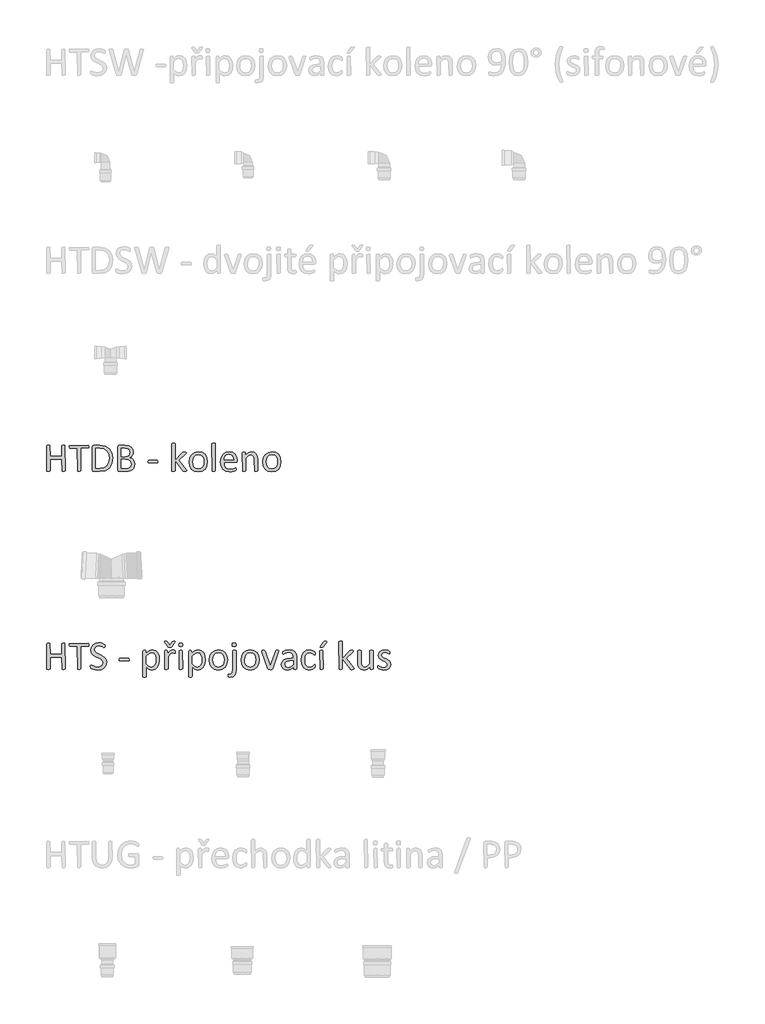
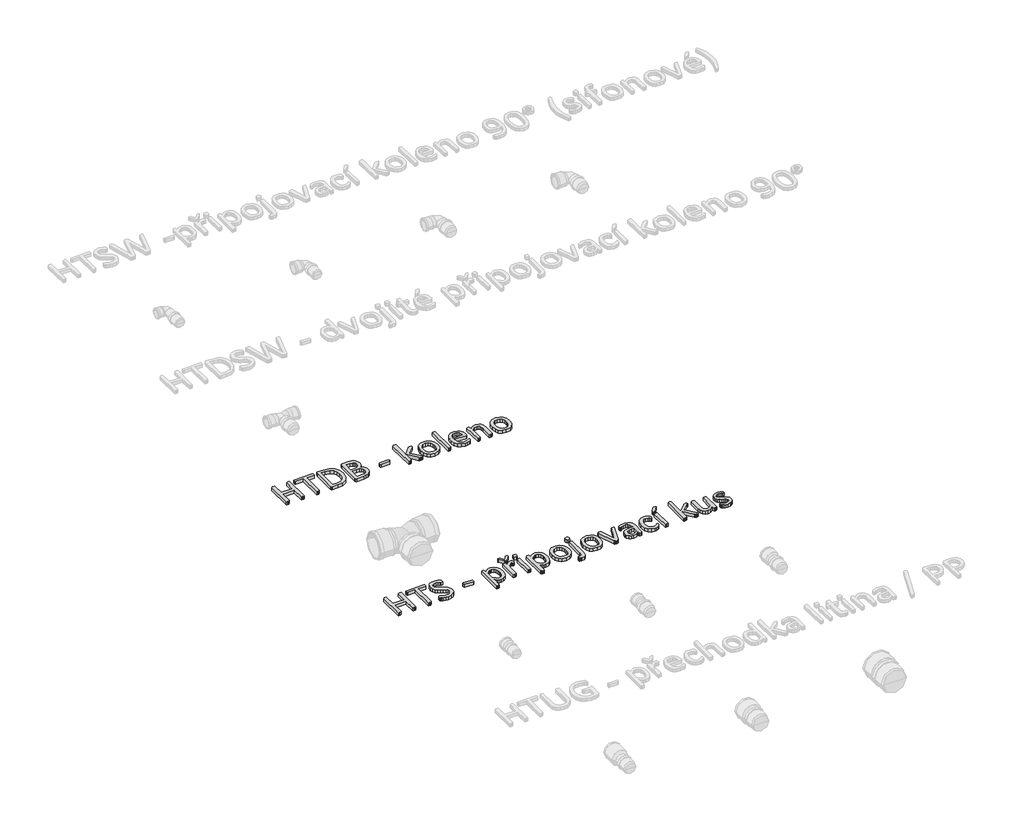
# One storey, part 4 of 26: 2 proxies.
"""IFC4 building model written with IfcOpenShell, lengths in millimetres."""

from ifc_helpers import new_model, si_unit, origin, origin_with_axes, place, context, project, spatial, polyline, outline, extrude, element, save

model = new_model("IFC4")

# Units and contexts
model_context = context("Model", 3, world=origin())
ifc_project = project(units=[si_unit("LENGTHUNIT", "METRE", prefix="MILLI")], contexts=[model_context])

# Site, building, storey
site = spatial("IfcSite", under=ifc_project)
building = spatial("IfcBuilding", under=site)
storey = spatial("IfcBuildingStorey", under=building, Name="Podlaží 1", Elevation=0.0)

# Proxies
placement = place(None, origin())
element("IfcBuildingElementProxy", 1, Name="120mm Arial", ObjectType="120mm Arial", at=placement, inside=storey, context=model_context, shape_type="SweptSolid", body=[
    extrude(outline(polyline([(-20465.0657483, -3951.9493003), (-20469.2817655, -3954.6815689), (-20473.1358927, -3954.9167974), (-20477.1166815, -3954.6815689), (-20479.5775327, -3954.1387341), (-20481.2784151, -3899.3305111), (-20534.5486061, -3899.3305111), (-20534.5486061, -3951.9854893), (-20538.7465288, -3954.6815689), (-20542.6549395, -3954.9167974), (-20546.5271613, -3954.6815689), (-20549.0603905, -3954.1206396), (-20550.7612729, -3837.4473409), (-20546.5271613, -3834.7150723), (-20542.6549395, -3834.4798438), (-20538.7465288, -3834.7150723), (-20536.2494886, -3835.2760016), (-20534.5486061, -3885.4339396), (-20481.2784151, -3885.4339396), (-20481.2784151, -3837.4473409), (-20477.1166815, -3834.7150723), (-20473.1358927, -3834.4798438), (-20469.2817655, -3834.7150723), (-20466.7666308, -3835.2760016), (-20465.0657483, -3951.9493003)])), origin_with_axes(), (0.0, 0.0, 1.0), 15.0),
    extrude(outline(polyline([(-20356.2092711, -3841.5366966), (-20356.390216, -3844.6670441), (-20356.9873343, -3846.8021944), (-20393.2667952, -3848.3764154), (-20393.2667952, -3951.9493003), (-20397.4647179, -3954.6815689), (-20401.3731287, -3954.9167974), (-20405.2453504, -3954.6815689), (-20407.7785796, -3954.1206396), (-20409.4794621, -3848.3764154), (-20443.3885442, -3848.3764154), (-20446.3017578, -3844.6670441), (-20446.5369862, -3841.5366966), (-20446.3017578, -3838.3339711), (-20445.686545, -3836.0902538), (-20359.3939021, -3834.4798438), (-20357.0054288, -3836.0902538), (-20356.390216, -3838.3339711), (-20356.2092711, -3841.5366966)])), origin_with_axes(), (0.0, 0.0, 1.0), 15.0),
    extrude(outline(polyline([(-20247.3527939, -3892.9250602), (-20251.3516771, -3920.2477464), (-20263.0407204, -3939.6088553), (-20281.8951833, -3951.0988591), (-20308.5121843, -3954.9167974), (-20334.0254212, -3954.9167974), (-20338.0966824, -3953.4692378), (-20339.9966043, -3948.4027794), (-20339.9966043, -3840.9938618), (-20338.0966824, -3835.9274034), (-20334.0254212, -3834.4798438), (-20306.7389239, -3834.4798438), (-20280.3028678, -3838.5330105), (-20262.1902791, -3850.1677703), (-20251.1164487, -3868.5517765), (-20247.3527939, -3892.9250602)]), holes=[polyline([(-20263.5654607, -3893.6488399), (-20266.0082174, -3875.6629127), (-20273.644094, -3861.2596953), (-20286.8168858, -3851.7781803), (-20307.3541367, -3848.3764154), (-20323.7839374, -3848.3764154), (-20323.7839374, -3941.0202258), (-20307.1731918, -3941.0202258), (-20287.5768545, -3938.1612957), (-20274.2593068, -3929.421655), (-20266.2434458, -3914.6565477), (-20263.5654607, -3893.6488399)])]), origin_with_axes(), (0.0, 0.0, 1.0), 15.0),
    extrude(outline(polyline([(-20145.4446024, -3920.8629592), (-20146.8740675, -3931.1768209), (-20150.8910452, -3939.6812332), (-20157.1155512, -3946.2857236), (-20165.3304516, -3951.0626701), (-20175.1195729, -3953.9577892), (-20187.0619391, -3954.9167974), (-20218.2930361, -3954.9167974), (-20222.2919194, -3953.4692378), (-20224.1918413, -3948.4027794), (-20224.1918413, -3840.9938618), (-20222.2738249, -3835.9274034), (-20218.2206582, -3834.4798438), (-20190.8617829, -3834.4798438), (-20173.1472731, -3836.5607107), (-20161.6572692, -3842.6042717), (-20154.727078, -3852.3391096), (-20152.3928882, -3865.38524), (-20153.4242744, -3873.6906128), (-20156.4460549, -3881.018883), (-20161.4763243, -3887.0262551), (-20168.4246101, -3891.3689337), (-20159.4497409, -3894.7164151), (-20152.1757543, -3900.9228266), (-20147.2540518, -3909.7348453), (-20145.4446024, -3920.8629592)]), holes=[polyline([(-20168.605555, -3867.5565793), (-20169.8178861, -3859.5588128), (-20173.6177299, -3853.4971573), (-20180.3850708, -3849.6973135), (-20191.4408067, -3848.3764154), (-20207.9791744, -3848.3764154), (-20207.9791744, -3887.7500348), (-20189.7761133, -3887.7500348), (-20179.7517635, -3886.1034359), (-20173.436785, -3881.6883793), (-20169.7636027, -3875.2105503), (-20168.605555, -3867.5565793)]), polyline([(-20161.6572692, -3921.0077152), (-20163.3581517, -3911.6709562), (-20168.3341376, -3904.9036153), (-20176.549038, -3900.7418817), (-20188.9799555, -3899.3305111), (-20207.9791744, -3899.3305111), (-20207.9791744, -3941.0202258), (-20184.9267888, -3941.0202258), (-20175.4090849, -3939.7355167), (-20168.2617596, -3935.9356729), (-20163.4124352, -3929.6749779), (-20161.6572692, -3921.0077152)])]), origin_with_axes(), (0.0, 0.0, 1.0), 15.0),
    extrude(outline(polyline([(-20038.9042205, -3909.7167508), (-20039.7546617, -3914.2765633), (-20042.2336074, -3915.5431779), (-20081.8243608, -3915.5431779), (-20084.3756844, -3914.2403744), (-20085.2261257, -3909.7167508), (-20084.3756844, -3905.2293162), (-20081.8243608, -3903.9627016), (-20042.2336074, -3903.9627016), (-20039.1394489, -3907.0025767), (-20038.9042205, -3909.7167508)])), origin_with_axes(), (0.0, 0.0, 1.0), 15.0),
    extrude(outline(polyline([(-19906.8867906, -3951.9854893), (-19910.9580518, -3954.7358524), (-19914.9569351, -3954.9167974), (-19919.0824797, -3954.7720414), (-19921.8328429, -3954.3196791), (-19923.6422923, -3953.4149543), (-19924.9089069, -3951.9854893), (-19960.1569816, -3906.4235529), (-19960.1569816, -3952.0940563), (-19964.2825263, -3954.7358524), (-19968.299504, -3954.9167974), (-19972.2441038, -3954.7358524), (-19974.741144, -3954.1749231), (-19976.3696484, -3828.1829599), (-19972.2441038, -3825.3964077), (-19968.299504, -3825.2154628), (-19964.2825263, -3825.3964077), (-19961.8397696, -3825.9573371), (-19960.5550605, -3826.8982508), (-19960.1569816, -3904.3245915), (-19927.9487819, -3870.0898085), (-19926.3383719, -3868.5879654), (-19924.3117886, -3867.5927683), (-19921.5252365, -3867.0499334), (-19917.6349202, -3866.9051775), (-19913.6541315, -3867.0499334), (-19911.0666188, -3867.5022958), (-19909.6371538, -3868.316548), (-19909.8361932, -3871.8449744), (-19911.953249, -3874.3962981), (-19943.9443148, -3904.2160246), (-19909.1666969, -3947.6789997), (-19907.411531, -3950.1941344), (-19906.8867906, -3951.9854893)])), origin_with_axes(), (0.0, 0.0, 1.0), 15.0),
    extrude(outline(polyline([(-19811.926885, -3910.0062627), (-19814.6048701, -3928.9873871), (-19822.6207311, -3943.9334394), (-19835.9744678, -3953.7225607), (-19854.5575134, -3957.2328926), (-19872.4710626, -3954.1387341), (-19885.2095866, -3945.1457705), (-19892.8092741, -3930.8149311), (-19895.3063143, -3911.7071452), (-19892.6645182, -3892.7260207), (-19884.7029407, -3877.798063), (-19871.4034875, -3868.0632251), (-19852.7842529, -3864.5890822), (-19834.8526092, -3867.6832407), (-19822.1140852, -3876.6762044), (-19814.4782087, -3891.0070438), (-19811.926885, -3910.0062627)]), holes=[polyline([(-19828.1395518, -3911.0919324), (-19829.3880719, -3898.5162589), (-19833.4955221, -3888.1300192), (-19841.2218711, -3881.0731665), (-19853.3994657, -3878.4856538), (-19864.9618475, -3880.8560325), (-19872.923425, -3887.5509954), (-19877.57371, -3897.7924791), (-19879.0936475, -3910.7300425), (-19877.8451274, -3923.3780939), (-19873.7014882, -3933.7281446), (-19865.9208557, -3940.7488084), (-19853.7613556, -3943.3363211), (-19842.2351628, -3940.9659423), (-19834.2193019, -3934.3252629), (-19829.6052058, -3924.1199682), (-19828.1395518, -3911.0919324)])]), origin_with_axes(), (0.0, 0.0, 1.0), 15.0),
    extrude(outline(polyline([(-19774.8693608, -3952.0578673), (-19778.9949055, -3954.7358524), (-19783.0118832, -3954.9167974), (-19786.956483, -3954.7358524), (-19789.4535232, -3954.1749231), (-19791.0820276, -3828.1829599), (-19786.956483, -3825.3964077), (-19783.0118832, -3825.2154628), (-19778.9949055, -3825.3964077), (-19776.5521488, -3825.9573371), (-19774.8693608, -3952.0578673)])), origin_with_axes(), (0.0, 0.0, 1.0), 15.0),
    extrude(outline(polyline([(-19675.2772646, -3906.6044978), (-19677.0686196, -3911.7071452), (-19681.1760698, -3913.2270827), (-19735.4957414, -3913.2270827), (-19734.1386543, -3926.6170084), (-19729.6331253, -3936.8223031), (-19721.4182249, -3943.3725101), (-19709.0415909, -3945.6524163), (-19698.7639181, -3944.5848412), (-19690.9470966, -3942.1782734), (-19685.5368429, -3939.7717057), (-19682.3341174, -3938.7041305), (-19680.0361166, -3941.5992496), (-19679.9094552, -3944.2410458), (-19679.9999276, -3946.1771567), (-19684.4511732, -3951.5693159), (-19690.8023407, -3954.0663561), (-19699.8495878, -3956.2557899), (-19710.8148513, -3957.2328926), (-19728.4931721, -3954.3377735), (-19741.2497906, -3945.7247943), (-19749.0666121, -3931.3758604), (-19751.7084082, -3911.3452553), (-19748.9399506, -3891.8032015), (-19740.9602787, -3877.1104722), (-19728.3665107, -3867.8279967), (-19711.828143, -3864.5890822), (-19695.1812083, -3867.7194297), (-19683.8721494, -3876.151464), (-19677.3581315, -3888.5823816), (-19675.2772646, -3903.8179457), (-19675.2772646, -3906.6044978)]), holes=[polyline([(-19691.4899315, -3901.6466064), (-19692.66155, -3891.0206147), (-19696.6830513, -3882.9549939), (-19703.4549158, -3877.8659174), (-19712.8776236, -3876.1695585), (-19722.521989, -3878.2685199), (-19729.4521803, -3883.8597186), (-19733.7767645, -3891.9841465), (-19735.4957414, -3901.6466064), (-19691.4899315, -3901.6466064)])]), origin_with_axes(), (0.0, 0.0, 1.0), 15.0),
    extrude(outline(polyline([(-19580.317359, -3952.0578673), (-19584.4429037, -3954.7358524), (-19588.3875034, -3954.9167974), (-19592.4044811, -3954.7358524), (-19594.8472378, -3954.1930176), (-19596.5300258, -3903.7093787), (-19597.597601, -3892.3460364), (-19600.6917595, -3884.9091992), (-19605.9572573, -3880.1322528), (-19613.4302834, -3878.4856538), (-19624.4136414, -3882.520726), (-19635.9036452, -3894.3726197), (-19635.9036452, -3952.0578673), (-19640.0291899, -3954.7358524), (-19644.0461676, -3954.9167974), (-19647.9907674, -3954.7358524), (-19650.4878076, -3954.1930176), (-19652.116312, -3869.7279186), (-19648.3888462, -3867.0499334), (-19644.7337584, -3866.9051775), (-19641.1510485, -3867.0499334), (-19638.9435203, -3867.5927683), (-19637.4597717, -3880.6208041), (-19623.6174836, -3868.4432095), (-19609.7028176, -3864.5890822), (-19595.878624, -3867.4118233), (-19586.7951879, -3874.9572274), (-19581.819202, -3886.0129634), (-19580.317359, -3901.2485275), (-19580.317359, -3952.0578673)])), origin_with_axes(), (0.0, 0.0, 1.0), 15.0),
    extrude(outline(polyline([(-19473.776977, -3910.0062627), (-19476.4549622, -3928.9873871), (-19484.4708231, -3943.9334394), (-19497.8245598, -3953.7225607), (-19516.4076054, -3957.2328926), (-19534.3211547, -3954.1387341), (-19547.0596786, -3945.1457705), (-19554.6593662, -3930.8149311), (-19557.1564064, -3911.7071452), (-19554.5146102, -3892.7260207), (-19546.5530328, -3877.798063), (-19533.2535795, -3868.0632251), (-19514.634345, -3864.5890822), (-19496.7027012, -3867.6832407), (-19483.9641773, -3876.6762044), (-19476.3283007, -3891.0070438), (-19473.776977, -3910.0062627)]), holes=[polyline([(-19489.9896438, -3911.0919324), (-19491.2381639, -3898.5162589), (-19495.3456141, -3888.1300192), (-19503.0719632, -3881.0731665), (-19515.2495578, -3878.4856538), (-19526.8119396, -3880.8560325), (-19534.773517, -3887.5509954), (-19539.423802, -3897.7924791), (-19540.9437396, -3910.7300425), (-19539.6952195, -3923.3780939), (-19535.5515803, -3933.7281446), (-19527.7709478, -3940.7488084), (-19515.6114477, -3943.3363211), (-19504.0852548, -3940.9659423), (-19496.0693939, -3934.3252629), (-19491.4552979, -3924.1199682), (-19489.9896438, -3911.0919324)])]), origin_with_axes(), (0.0, 0.0, 1.0), 15.0),
])
element("IfcBuildingElementProxy", 2, Name="120mm Arial", ObjectType="120mm Arial", at=placement, inside=storey, context=model_context, shape_type="SweptSolid", body=[
    extrude(outline(polyline([(-20465.0657483, -4861.9493003), (-20469.2817655, -4864.6815689), (-20473.1358927, -4864.9167974), (-20477.1166815, -4864.6815689), (-20479.5775327, -4864.1387341), (-20481.2784151, -4809.3305111), (-20534.5486061, -4809.3305111), (-20534.5486061, -4861.9854893), (-20538.7465288, -4864.6815689), (-20542.6549395, -4864.9167974), (-20546.5271613, -4864.6815689), (-20549.0603905, -4864.1206396), (-20550.7612729, -4747.4473409), (-20546.5271613, -4744.7150723), (-20542.6549395, -4744.4798438), (-20538.7465288, -4744.7150723), (-20536.2494886, -4745.2760016), (-20534.5486061, -4795.4339396), (-20481.2784151, -4795.4339396), (-20481.2784151, -4747.4473409), (-20477.1166815, -4744.7150723), (-20473.1358927, -4744.4798438), (-20469.2817655, -4744.7150723), (-20466.7666308, -4745.2760016), (-20465.0657483, -4861.9493003)])), origin_with_axes(), (0.0, 0.0, 1.0), 15.0),
    extrude(outline(polyline([(-20356.2092711, -4751.5366966), (-20356.390216, -4754.6670441), (-20356.9873343, -4756.8021944), (-20393.2667952, -4758.3764154), (-20393.2667952, -4861.9493003), (-20397.4647179, -4864.6815689), (-20401.3731287, -4864.9167974), (-20405.2453504, -4864.6815689), (-20407.7785796, -4864.1206396), (-20409.4794621, -4758.3764154), (-20443.3885442, -4758.3764154), (-20446.3017578, -4754.6670441), (-20446.5369862, -4751.5366966), (-20446.3017578, -4748.3339711), (-20445.686545, -4746.0902538), (-20359.3939021, -4744.4798438), (-20357.0054288, -4746.0902538), (-20356.390216, -4748.3339711), (-20356.2092711, -4751.5366966)])), origin_with_axes(), (0.0, 0.0, 1.0), 15.0),
    extrude(outline(polyline([(-20275.145937, -4831.3696051), (-20278.25819, -4846.5689802), (-20286.9254527, -4857.8780391), (-20299.9715831, -4864.8806084), (-20316.1118719, -4867.2328926), (-20327.3304583, -4866.3281679), (-20336.5586504, -4864.1025451), (-20343.3621802, -4861.3702765), (-20347.1801185, -4858.9637088), (-20348.7543395, -4856.1771567), (-20349.2609853, -4851.4183047), (-20349.0800404, -4847.8898783), (-20348.519111, -4845.6280665), (-20342.5479279, -4845.5194996), (-20336.3777054, -4848.6679416), (-20327.3123638, -4851.8525725), (-20315.0623912, -4853.3363211), (-20305.4180258, -4851.9249505), (-20297.9088107, -4847.9441618), (-20293.0594863, -4841.6472778), (-20291.3586038, -4833.1428655), (-20293.747077, -4824.3127523), (-20300.0258665, -4817.8892069), (-20308.9102632, -4812.8227485), (-20319.1517469, -4808.11818), (-20329.3389472, -4802.8164932), (-20338.1871548, -4795.9767744), (-20344.5202278, -4786.7123934), (-20346.94489, -4774.0100584), (-20344.1764324, -4760.4210933), (-20336.4862724, -4750.4329324), (-20324.7610401, -4744.2808044), (-20310.0683108, -4742.1637486), (-20301.9438829, -4742.9418118), (-20294.2537229, -4745.0045842), (-20287.8120829, -4747.8816088), (-20284.1027116, -4750.4510269), (-20282.944664, -4751.95287), (-20282.1846952, -4755.2641624), (-20282.0942228, -4758.2316595), (-20282.2389787, -4761.3077235), (-20282.6551521, -4763.5514408), (-20287.8844609, -4763.9133306), (-20293.3128092, -4760.7467941), (-20300.9124968, -4757.5259742), (-20310.7559016, -4756.0603201), (-20319.6041093, -4757.3812182), (-20325.8286153, -4760.8915501), (-20329.5017976, -4766.1027644), (-20330.7322232, -4772.4901209), (-20328.379939, -4781.2116671), (-20322.1011495, -4787.689496), (-20313.1805638, -4792.8645214), (-20302.9933636, -4797.6052789), (-20292.7880688, -4802.8707767), (-20283.8674832, -4809.6381175), (-20277.5525047, -4818.8301206), (-20275.145937, -4831.3696051)])), origin_with_axes(), (0.0, 0.0, 1.0), 15.0),
    extrude(outline(polyline([(-20170.9216503, -4819.7167508), (-20171.7720915, -4824.2765633), (-20174.2510372, -4825.5431779), (-20213.8417906, -4825.5431779), (-20216.3931143, -4824.2403744), (-20217.2435555, -4819.7167508), (-20216.3931143, -4815.2293162), (-20213.8417906, -4813.9627016), (-20174.2510372, -4813.9627016), (-20171.1568787, -4817.0025767), (-20170.9216503, -4819.7167508)])), origin_with_axes(), (0.0, 0.0, 1.0), 15.0),
    extrude(outline(polyline([(-20031.9559347, -4819.6443728), (-20034.2720299, -4839.494033), (-20041.0755598, -4854.4400852), (-20052.2036737, -4863.9035057), (-20067.3849544, -4867.2328926), (-20074.0980117, -4866.4910184), (-20080.1415728, -4864.1387341), (-20086.0041889, -4860.1036619), (-20092.1744114, -4854.3858017), (-20092.1744114, -4896.6545402), (-20093.8571994, -4898.916352), (-20096.2999561, -4899.4772813), (-20100.3169338, -4899.6582263), (-20104.2615336, -4899.4772813), (-20106.7585738, -4898.916352), (-20108.0432829, -4897.9754383), (-20108.0432829, -4779.8002966), (-20104.6596125, -4777.0499334), (-20101.2940365, -4776.9051775), (-20097.9103661, -4777.0318389), (-20095.7028378, -4777.5022958), (-20094.1286168, -4790.1503473), (-20086.9451026, -4783.3106284), (-20079.9787223, -4778.4793985), (-20072.7771136, -4775.5661849), (-20064.9964811, -4774.5890822), (-20049.797106, -4778.1536976), (-20039.5556223, -4787.8885355), (-20033.7834786, -4802.2555639), (-20031.9559347, -4819.6443728)]), holes=[polyline([(-20048.1686015, -4821.4176333), (-20049.1095152, -4809.1495662), (-20052.3484297, -4798.6185705), (-20058.5186522, -4791.2541114), (-20068.1449231, -4788.4856538), (-20073.8265943, -4789.336095), (-20079.490171, -4792.0502691), (-20085.5156376, -4796.9357826), (-20092.1744114, -4804.3726197), (-20092.1744114, -4837.919812), (-20080.5758406, -4849.3736268), (-20069.0496478, -4853.3363211), (-20059.4595659, -4850.5678634), (-20052.981737, -4843.2034043), (-20049.3447436, -4832.9076371), (-20048.1686015, -4821.4176333)])]), origin_with_axes(), (0.0, 0.0, 1.0), 15.0),
    extrude(outline(polyline([(-19972.8955056, -4737.8934479), (-19971.7374579, -4736.6087389), (-19968.44426, -4735.3421243), (-19965.5491409, -4735.2154628), (-19961.7673916, -4735.5230692), (-19959.9579422, -4736.4096994), (-19961.3150293, -4740.2095432), (-19976.2610815, -4760.6925107), (-19977.4372236, -4761.8505583), (-19979.0295391, -4762.5200546), (-19981.3456344, -4762.8819445), (-19984.6931158, -4763.0086059), (-19987.8415578, -4762.8819445), (-19990.0671806, -4762.4838656), (-19991.6052126, -4761.7600858), (-20007.6369345, -4740.2095432), (-20009.0302105, -4737.9839204), (-20007.1302886, -4735.5230692), (-20003.3666338, -4735.2154628), (-20000.2543808, -4735.3421243), (-19998.3725534, -4735.7944866), (-19996.0564582, -4737.8934479), (-19984.4759819, -4754.0699258), (-19972.8955056, -4737.8934479)])), origin_with_axes(), (0.0, 0.0, 1.0), 15.0),
    extrude(outline(polyline([(-19960.1569816, -4783.8534633), (-19960.2474541, -4787.1466612), (-19960.609344, -4789.2818115), (-19964.1558648, -4790.4941426), (-19966.4900546, -4789.6617959), (-19969.4032682, -4788.8656382), (-19972.8955056, -4788.4856538), (-19977.3105621, -4789.480851), (-19981.8522802, -4792.7378599), (-19986.8282661, -4798.745232), (-19992.5823153, -4807.9191406), (-19992.5823153, -4862.0940563), (-19996.7078599, -4864.7358524), (-20000.7248377, -4864.9167974), (-20004.6694374, -4864.7358524), (-20007.1664776, -4864.1930176), (-20008.7949821, -4779.7279186), (-20005.0675163, -4777.0499334), (-20001.4124284, -4776.9051775), (-19997.8297186, -4777.0499334), (-19995.6221903, -4777.5927683), (-19994.1384418, -4791.7426627), (-19987.8777468, -4783.1658725), (-19982.322737, -4777.9365637), (-19977.1477117, -4775.312862), (-19971.9545919, -4774.5890822), (-19969.3127957, -4774.7157437), (-19966.2005427, -4775.204295), (-19963.2692346, -4776.0185473), (-19961.4235962, -4776.9051775), (-19960.1931706, -4780.5964543), (-19960.1569816, -4783.8534633)])), origin_with_axes(), (0.0, 0.0, 1.0), 15.0),
    extrude(outline(polyline([(-19925.4155527, -4862.0940563), (-19929.5410974, -4864.7358524), (-19933.5580751, -4864.9167974), (-19937.5026749, -4864.7358524), (-19939.9997151, -4864.1930176), (-19941.6282195, -4779.7279186), (-19937.5026749, -4777.0861224), (-19933.5580751, -4776.9051775), (-19929.5410974, -4777.0861224), (-19927.0983407, -4777.6289573), (-19925.4155527, -4862.0940563)])), origin_with_axes(), (0.0, 0.0, 1.0), 15.0),
    extrude(outline(polyline([(-19925.4155527, -4751.3195627), (-19927.4059471, -4758.7202108), (-19934.7885007, -4760.6925107), (-19941.9901094, -4758.7744943), (-19943.9443148, -4751.5366966), (-19941.9539204, -4744.1360485), (-19934.5713668, -4742.1637486), (-19927.3697581, -4744.081765), (-19925.4155527, -4751.3195627)])), origin_with_axes(), (0.0, 0.0, 1.0), 15.0),
    extrude(outline(polyline([(-19821.191266, -4819.6443728), (-19823.5073613, -4839.494033), (-19830.3108911, -4854.4400852), (-19841.4390051, -4863.9035057), (-19856.6202857, -4867.2328926), (-19863.3333431, -4866.4910184), (-19869.3769041, -4864.1387341), (-19875.2395203, -4860.1036619), (-19881.4097428, -4854.3858017), (-19881.4097428, -4896.6545402), (-19883.0925307, -4898.916352), (-19885.5352875, -4899.4772813), (-19889.5522652, -4899.6582263), (-19893.4968649, -4899.4772813), (-19895.9939051, -4898.916352), (-19897.2786142, -4897.9754383), (-19897.2786142, -4779.8002966), (-19893.8949438, -4777.0499334), (-19890.5293679, -4776.9051775), (-19887.1456974, -4777.0318389), (-19884.9381692, -4777.5022958), (-19883.3639482, -4790.1503473), (-19876.180434, -4783.3106284), (-19869.2140537, -4778.4793985), (-19862.012445, -4775.5661849), (-19854.2318125, -4774.5890822), (-19839.0324373, -4778.1536976), (-19828.7909536, -4787.8885355), (-19823.0188099, -4802.2555639), (-19821.191266, -4819.6443728)]), holes=[polyline([(-19837.4039328, -4821.4176333), (-19838.3448465, -4809.1495662), (-19841.583761, -4798.6185705), (-19847.7539835, -4791.2541114), (-19857.3802545, -4788.4856538), (-19863.0619256, -4789.336095), (-19868.7255023, -4792.0502691), (-19874.7509689, -4796.9357826), (-19881.4097428, -4804.3726197), (-19881.4097428, -4837.919812), (-19869.811172, -4849.3736268), (-19858.2849792, -4853.3363211), (-19848.6948972, -4850.5678634), (-19842.2170683, -4843.2034043), (-19838.580075, -4832.9076371), (-19837.4039328, -4821.4176333)])]), origin_with_axes(), (0.0, 0.0, 1.0), 15.0),
    extrude(outline(polyline([(-19719.2830746, -4820.0062627), (-19721.9610597, -4838.9873871), (-19729.9769207, -4853.9334394), (-19743.3306574, -4863.7225607), (-19761.913703, -4867.2328926), (-19779.8272522, -4864.1387341), (-19792.5657762, -4855.1457705), (-19800.1654637, -4840.8149311), (-19802.6625039, -4821.7071452), (-19800.0207078, -4802.7260207), (-19792.0591303, -4787.798063), (-19778.7596771, -4778.0632251), (-19760.1404425, -4774.5890822), (-19742.2087988, -4777.6832407), (-19729.4702748, -4786.6762044), (-19721.8343983, -4801.0070438), (-19719.2830746, -4820.0062627)]), holes=[polyline([(-19735.4957414, -4821.0919324), (-19736.7442615, -4808.5162589), (-19740.8517117, -4798.1300192), (-19748.5780607, -4791.0731665), (-19760.7556553, -4788.4856538), (-19772.3180371, -4790.8560325), (-19780.2796146, -4797.5509954), (-19784.9298996, -4807.7924791), (-19786.4498371, -4820.7300425), (-19785.201317, -4833.3780939), (-19781.0576778, -4843.7281446), (-19773.2770453, -4850.7488084), (-19761.1175452, -4853.3363211), (-19749.5913524, -4850.9659423), (-19741.5754915, -4844.3252629), (-19736.9613954, -4834.1199682), (-19735.4957414, -4821.0919324)])]), origin_with_axes(), (0.0, 0.0, 1.0), 15.0),
    extrude(outline(polyline([(-19679.9094552, -4751.3195627), (-19681.917944, -4758.7202108), (-19689.3185922, -4760.6925107), (-19696.5202009, -4758.7744943), (-19698.4382172, -4751.5366966), (-19696.4840119, -4744.1360485), (-19689.1376472, -4742.1637486), (-19681.8274715, -4744.081765), (-19679.9094552, -4751.3195627)])), origin_with_axes(), (0.0, 0.0, 1.0), 15.0),
    extrude(outline(polyline([(-19679.9094552, -4866.2919789), (-19681.3751092, -4881.672299), (-19685.9530162, -4891.5518929), (-19693.9507827, -4897.6135484), (-19705.7483929, -4899.6582263), (-19711.0681742, -4899.2601474), (-19714.4337501, -4898.3735172), (-19716.0441601, -4897.2516585), (-19716.6774674, -4895.76791), (-19716.9126958, -4894.0308386), (-19716.9669793, -4891.8775938), (-19716.8222234, -4888.8196242), (-19716.333672, -4886.7387574), (-19712.1538439, -4885.5264263), (-19708.2092441, -4885.7616547), (-19702.6904234, -4884.8388355), (-19698.9448631, -4881.817055), (-19696.8097128, -4876.3706122), (-19696.122122, -4866.2196009), (-19696.122122, -4779.7641076), (-19694.403145, -4777.6470517), (-19691.9241993, -4777.0861224), (-19688.0157886, -4776.9051775), (-19684.1073778, -4777.0861224), (-19681.6284321, -4777.6470517), (-19680.307534, -4778.569871), (-19679.9094552, -4866.2919789)])), origin_with_axes(), (0.0, 0.0, 1.0), 15.0),
    extrude(outline(polyline([(-19573.3690732, -4820.0062627), (-19576.0470583, -4838.9873871), (-19584.0629193, -4853.9334394), (-19597.416656, -4863.7225607), (-19615.9997016, -4867.2328926), (-19633.9132509, -4864.1387341), (-19646.6517748, -4855.1457705), (-19654.2514624, -4840.8149311), (-19656.7485026, -4821.7071452), (-19654.1067064, -4802.7260207), (-19646.1451289, -4787.798063), (-19632.8456757, -4778.0632251), (-19614.2264411, -4774.5890822), (-19596.2947974, -4777.6832407), (-19583.5562734, -4786.6762044), (-19575.9203969, -4801.0070438), (-19573.3690732, -4820.0062627)]), holes=[polyline([(-19589.58174, -4821.0919324), (-19590.8302601, -4808.5162589), (-19594.9377103, -4798.1300192), (-19602.6640593, -4791.0731665), (-19614.841654, -4788.4856538), (-19626.4040358, -4790.8560325), (-19634.3656132, -4797.5509954), (-19639.0158982, -4807.7924791), (-19640.5358357, -4820.7300425), (-19639.2873156, -4833.3780939), (-19635.1436765, -4843.7281446), (-19627.363044, -4850.7488084), (-19615.2035438, -4853.3363211), (-19603.677351, -4850.9659423), (-19595.6614901, -4844.3252629), (-19591.0473941, -4834.1199682), (-19589.58174, -4821.0919324)])]), origin_with_axes(), (0.0, 0.0, 1.0), 15.0),
    extrude(outline(polyline([(-19484.0094135, -4778.497493), (-19512.4991946, -4861.6235994), (-19513.4762973, -4863.2701984), (-19515.2857468, -4864.2653956), (-19518.3437163, -4864.7720414), (-19522.9940013, -4864.9167974), (-19527.6080973, -4864.7358524), (-19530.6298779, -4864.1930176), (-19532.4393273, -4863.1797259), (-19533.452619, -4861.6235994), (-19561.8247859, -4783.3830064), (-19562.4219042, -4781.4830845), (-19558.8210998, -4776.99565), (-19555.23839, -4776.9051775), (-19550.9319004, -4777.0499334), (-19548.4348602, -4777.5565793), (-19546.3358988, -4779.8364855), (-19522.7768674, -4847.7270279), (-19498.855946, -4779.8364855), (-19496.8836461, -4777.5565793), (-19494.4589839, -4777.0499334), (-19490.4239117, -4776.9051775), (-19486.8954853, -4776.99565), (-19484.0094135, -4778.497493)])), origin_with_axes(), (0.0, 0.0, 1.0), 15.0),
    extrude(outline(polyline([(-19401.978024, -4862.1302453), (-19402.7741817, -4863.8130332), (-19404.945521, -4864.64538), (-19408.9986877, -4864.9167974), (-19413.1061379, -4864.64538), (-19415.3317607, -4863.8130332), (-19416.0193515, -4862.1302453), (-19416.0193515, -4853.8067779), (-19428.2150406, -4863.4330488), (-19442.473502, -4867.2328926), (-19454.4339627, -4865.5139157), (-19463.5354933, -4860.5379298), (-19469.3800149, -4852.5401633), (-19471.4608818, -4841.7558448), (-19468.5838572, -4829.4877777), (-19460.3327678, -4820.8386094), (-19447.1780705, -4815.6816786), (-19429.6626001, -4813.9627016), (-19418.1906908, -4813.9627016), (-19418.1906908, -4807.0506049), (-19419.2039825, -4798.0033577), (-19422.4609914, -4791.4531508), (-19428.2693241, -4787.5085511), (-19437.0451538, -4786.1695585), (-19447.087598, -4787.6171181), (-19454.8682306, -4790.801749), (-19460.4594293, -4793.98638), (-19463.7888162, -4795.4339396), (-19466.6477463, -4791.9055132), (-19466.8286912, -4789.2456225), (-19466.5029903, -4785.4457788), (-19464.9106749, -4782.7858881), (-19460.5679962, -4780.071714), (-19453.4749545, -4777.3937288), (-19444.6991248, -4775.38524), (-19435.0909484, -4774.5890822), (-19419.7106283, -4776.6337601), (-19409.4510501, -4782.6049432), (-19403.7512844, -4792.3578755), (-19401.978024, -4805.9649352), (-19401.978024, -4862.1302453)]), holes=[polyline([(-19418.1906908, -4825.5431779), (-19431.0739707, -4825.5431779), (-19441.8221002, -4826.6107531), (-19449.4036933, -4829.7591951), (-19453.8368444, -4834.7532755), (-19455.2482149, -4841.4663329), (-19451.1950482, -4851.8163836), (-19439.8317059, -4855.6524163), (-19428.8302534, -4852.5944468), (-19418.1906908, -4843.2395933), (-19418.1906908, -4825.5431779)])]), origin_with_axes(), (0.0, 0.0, 1.0), 15.0),
    extrude(outline(polyline([(-19316.2824993, -4848.2698627), (-19316.3729718, -4850.8030919), (-19316.6986727, -4852.6125413), (-19318.6890671, -4856.2495346), (-19322.5793833, -4859.777961), (-19328.7496059, -4863.5235213), (-19336.186443, -4866.2015065), (-19344.5099103, -4867.2328926), (-19360.2159313, -4864.2292066), (-19371.6697461, -4855.4533769), (-19378.7085044, -4841.3034824), (-19381.1331666, -4821.9604681), (-19378.1656696, -4800.5184924), (-19370.0412417, -4785.8438576), (-19357.899836, -4777.3575398), (-19342.7728389, -4774.5890822), (-19335.1369623, -4775.4033345), (-19328.3334325, -4777.5384848), (-19322.7965173, -4780.5783598), (-19319.2861854, -4783.5277624), (-19317.7843424, -4785.4638733), (-19317.0967516, -4787.0019053), (-19316.7348617, -4788.9018272), (-19316.6443892, -4791.5617178), (-19317.4586415, -4796.3748533), (-19319.4309413, -4797.7500348), (-19322.5612888, -4796.3024753), (-19327.0306289, -4793.1178443), (-19333.5989303, -4789.9332133), (-19342.6642719, -4788.4856538), (-19352.1864995, -4790.5846151), (-19359.1845451, -4796.8814991), (-19363.4865111, -4807.1772663), (-19364.9204998, -4821.2728773), (-19363.4367513, -4835.2780158), (-19359.0578837, -4845.3385546), (-19351.9467474, -4851.3640212), (-19342.302382, -4853.3363211), (-19333.2732294, -4851.5087771), (-19326.5420776, -4847.4917994), (-19321.7470366, -4843.5291052), (-19318.7071616, -4841.7558448), (-19316.4091608, -4845.3204601), (-19316.2824993, -4848.2698627)])), origin_with_axes(), (0.0, 0.0, 1.0), 15.0),
    extrude(outline(polyline([(-19279.2611642, -4738.5086608), (-19277.9221716, -4736.9163453), (-19276.0584387, -4735.9392426), (-19273.3261701, -4735.3964077), (-19269.4177593, -4735.2154628), (-19265.0750807, -4735.5230692), (-19262.7589854, -4736.4096994), (-19263.0123084, -4739.3410075), (-19280.3106448, -4760.1496758), (-19281.7039209, -4761.5791409), (-19283.1333859, -4762.4295821), (-19285.2323473, -4762.8819445), (-19288.4531672, -4763.0086059), (-19291.7825542, -4762.7371885), (-19293.5196256, -4762.0134087), (-19293.1215467, -4759.1725732), (-19279.2611642, -4738.5086608)])), origin_with_axes(), (0.0, 0.0, 1.0), 15.0),
    extrude(outline(polyline([(-19279.2249752, -4862.0940563), (-19283.3505199, -4864.7358524), (-19287.3674976, -4864.9167974), (-19291.3120973, -4864.7358524), (-19293.8091375, -4864.1930176), (-19295.437642, -4779.7279186), (-19291.3120973, -4777.0499334), (-19287.3674976, -4776.9051775), (-19283.3505199, -4777.0499334), (-19280.9077631, -4777.5927683), (-19279.2249752, -4862.0940563)])), origin_with_axes(), (0.0, 0.0, 1.0), 15.0),
    extrude(outline(polyline([(-19137.9431643, -4861.9854893), (-19142.0144255, -4864.7358524), (-19146.0133087, -4864.9167974), (-19150.1388534, -4864.7720414), (-19152.8892165, -4864.3196791), (-19154.698666, -4863.4149543), (-19155.9652806, -4861.9854893), (-19191.2133553, -4816.4235529), (-19191.2133553, -4862.0940563), (-19195.3389, -4864.7358524), (-19199.3558777, -4864.9167974), (-19203.3004774, -4864.7358524), (-19205.7975176, -4864.1749231), (-19207.4260221, -4738.1829599), (-19203.3004774, -4735.3964077), (-19199.3558777, -4735.2154628), (-19195.3389, -4735.3964077), (-19192.8961433, -4735.9573371), (-19191.6114342, -4736.8982508), (-19191.2133553, -4814.3245915), (-19159.0051556, -4780.0898085), (-19157.3947456, -4778.5879654), (-19155.3681623, -4777.5927683), (-19152.5816101, -4777.0499334), (-19148.6912939, -4776.9051775), (-19144.7105052, -4777.0499334), (-19142.1229925, -4777.5022958), (-19140.6935274, -4778.316548), (-19140.8925669, -4781.8449744), (-19143.0096227, -4784.3962981), (-19175.0006885, -4814.2160246), (-19140.2230706, -4857.6789997), (-19138.4679047, -4860.1941344), (-19137.9431643, -4861.9854893)])), origin_with_axes(), (0.0, 0.0, 1.0), 15.0),
    extrude(outline(polyline([(-19049.9315444, -4862.0940563), (-19053.7856717, -4864.7358524), (-19057.2417201, -4864.9167974), (-19060.9329969, -4864.7358524), (-19063.1767142, -4864.1930176), (-19064.5880848, -4851.2011707), (-19078.4665618, -4863.3968599), (-19092.3450389, -4867.2328926), (-19106.1692325, -4864.4463405), (-19115.2526686, -4856.9009364), (-19120.2286545, -4845.790917), (-19121.7304975, -4830.3563134), (-19121.7304975, -4779.7641076), (-19120.065804, -4777.6108628), (-19117.5325748, -4777.0499334), (-19113.6241641, -4776.9051775), (-19109.7157533, -4777.0499334), (-19107.2368076, -4777.5927683), (-19105.9159096, -4778.497493), (-19105.5178307, -4827.8230842), (-19104.504539, -4839.421655), (-19101.392286, -4846.8584921), (-19096.1086937, -4851.6354386), (-19088.6537621, -4853.3363211), (-19077.7065931, -4849.2650599), (-19066.1442113, -4837.3045992), (-19066.1442113, -4779.7279186), (-19064.4795178, -4777.5927683), (-19061.9824776, -4777.0499334), (-19058.0378778, -4776.9051775), (-19054.1294671, -4777.0499334), (-19051.6867104, -4777.5927683), (-19050.3658123, -4778.497493), (-19049.9315444, -4862.0940563)])), origin_with_axes(), (0.0, 0.0, 1.0), 15.0),
    extrude(outline(polyline([(-18968.8682103, -4840.1635293), (-18971.2747781, -4851.6897221), (-18978.1325914, -4860.2122289), (-18988.7178705, -4865.4596322), (-19002.2344577, -4867.2328926), (-19010.9017204, -4866.4005459), (-19018.2661796, -4864.2834901), (-19023.7850003, -4861.6055049), (-19027.0962927, -4859.0903702), (-19028.6162302, -4856.4304796), (-19029.0866871, -4852.2144624), (-19028.9057422, -4849.4821938), (-19028.4352853, -4847.6908389), (-19023.4773939, -4847.8355948), (-19018.5556915, -4851.0202258), (-19011.6255002, -4854.2048568), (-19002.4515916, -4855.6524163), (-18995.3947389, -4854.7657861), (-18989.9121071, -4852.1420844), (-18986.3293973, -4847.7270279), (-18985.0808772, -4841.3939549), (-18986.8722321, -4835.4046773), (-18991.6310841, -4831.0800932), (-18998.2717634, -4827.7507062), (-19005.871451, -4824.7108312), (-19013.5254221, -4821.1100269), (-19020.2203849, -4816.1883244), (-19024.9792369, -4809.2581331), (-19026.7705918, -4799.5956732), (-19024.8525755, -4790.0960638), (-19019.0985263, -4782.1344863), (-19009.5084444, -4776.6518546), (-18996.0461407, -4774.5890822), (-18989.3149888, -4775.204295), (-18983.2352387, -4776.7604215), (-18978.6030482, -4778.7870049), (-18975.7079292, -4780.7050213), (-18974.4051256, -4782.0802028), (-18973.6451568, -4784.9210384), (-18973.5004009, -4787.3276062), (-18973.6451568, -4789.9513078), (-18974.1156137, -4791.7788517), (-18978.4944813, -4792.0140802), (-18982.7104984, -4789.6437014), (-18988.7902485, -4787.2733227), (-18996.7699204, -4786.1695585), (-19003.8629622, -4787.0923777), (-19008.8932316, -4789.7160794), (-19011.8607286, -4793.7330571), (-19012.8740203, -4798.7633265), (-19010.9560039, -4804.89736), (-19005.943829, -4809.2581331), (-18998.9050707, -4812.6237091), (-18990.8711153, -4815.6997731), (-18982.7828764, -4819.2643885), (-18975.7079292, -4824.0413349), (-18970.7500377, -4830.7905813), (-18968.8682103, -4840.1635293)])), origin_with_axes(), (0.0, 0.0, 1.0), 15.0),
])

save(model, "model.ifc")
